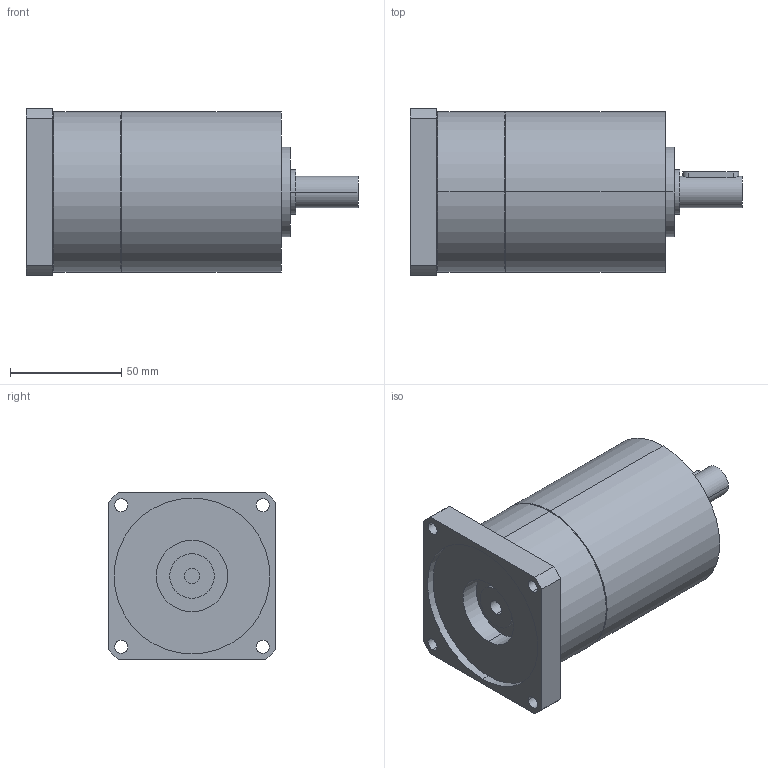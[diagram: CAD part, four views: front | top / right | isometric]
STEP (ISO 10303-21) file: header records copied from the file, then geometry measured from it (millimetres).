
FILE_DESCRIPTION(('CoCreate Modeling STEP Export'),'2;1');
FILE_NAME('GPT75_ig-9-12-16-20-25-28-35-40-50-70-100_14_B14T_7_P24.stp','2014-08-27T13:23:30',(''),(''),'CoCreate Modeling STEP processor for AP214 (Solid Model)','CoCreate Modeling 16.00C 25-Feb-2009 (C) Parametric Technology GmbH','');
FILE_SCHEMA(('AUTOMOTIVE_DESIGN { 1 0 10303 214 1 1 1 1 }'));
Length unit declared in the file: millimetre
Products named in the file (2): GPT75_ig-9-12-16-20-25-28-35-40-50-70-100_14_B14T_7_P24
Assembly tree (1 placements, depth 2):
  GPT75_ig-9-12-16-20-25-28-35-40-50-70-100_14_B14T_7_P24
    GPT75_ig-9-12-16-20-25-28-35-40-50-70-100_14_B14T_7_P24
Bounding box: 149 x 75 x 75 mm (x, y, z)
Volume: 471974 mm3; surface area: 44201.6 mm2
Topology: 1 solids, 1 shells, 69 faces, 163 edges, 110 vertices
Faces by surface type: cylinder 42, plane 23, cone 4
Entity records: 2146 total; most frequent: CARTESIAN_POINT 661, ORIENTED_EDGE 326, DIRECTION 262, EDGE_CURVE 163, VERTEX_POINT 110, AXIS2_PLACEMENT_3D 99, EDGE_LOOP 91, FACE_OUTER_BOUND 69
